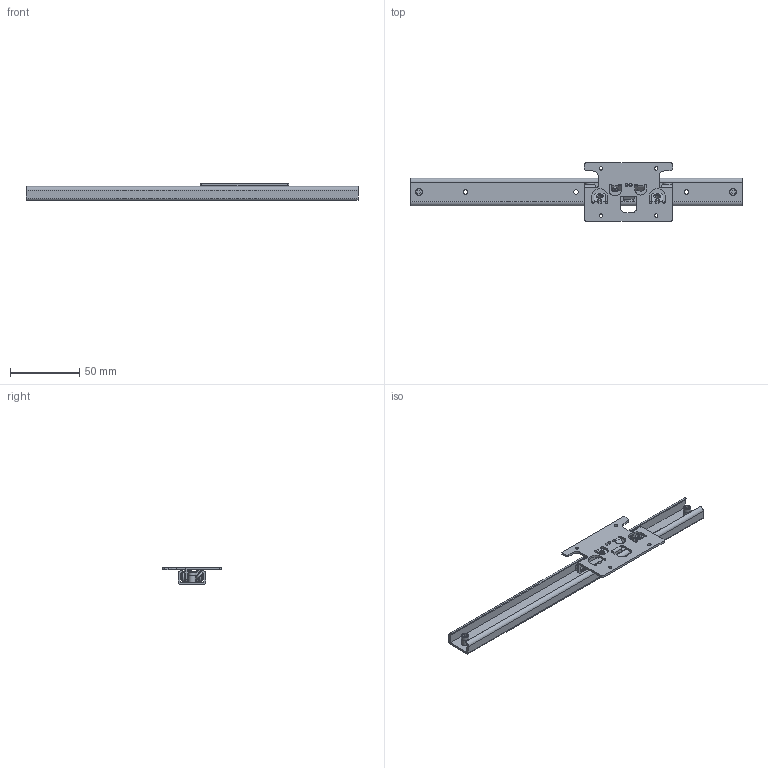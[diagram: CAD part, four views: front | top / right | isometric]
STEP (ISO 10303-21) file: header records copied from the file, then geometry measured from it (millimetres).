
FILE_DESCRIPTION((''),'1');
FILE_NAME('C:/Users/t-inoue/Desktop/20SW240SSN.stp','2016-12-01T03:01:40',(''),(''),'Spatial Interop R21 SP3','Kubotek KeyCreator 2011 V10.0.2 (22737)',' ');
FILE_SCHEMA(('automotive_design'));
Length unit declared in the file: millimetre
Products named in the file (342): Unnamed[1]
Bounding box: 240 x 42 x 12 mm (x, y, z)
Surface area: 25814 mm2 (no closed solid volume)
Topology: 0 solids, 342 shells, 342 faces, 1491 edges, 1396 vertices
Faces by surface type: plane 172, cylinder 121, cone 48, sphere 1
Full cylindrical faces by diameter (mm): 1.6 x1, 2.5 x8, 3.2 x9, 3.5 x1, 4 x7, 5 x13, 5.5 x2, 7 x6
Entity records: 29488 total; most frequent: CARTESIAN_POINT 3436, DIRECTION 3393, ORIENTED_EDGE 1376, EDGE_CURVE 1376, VERTEX_POINT 1376, PRESENTATION_STYLE_ASSIGNMENT 1368, COLOUR_RGB 1368, AXIS2_PLACEMENT_3D 1333
